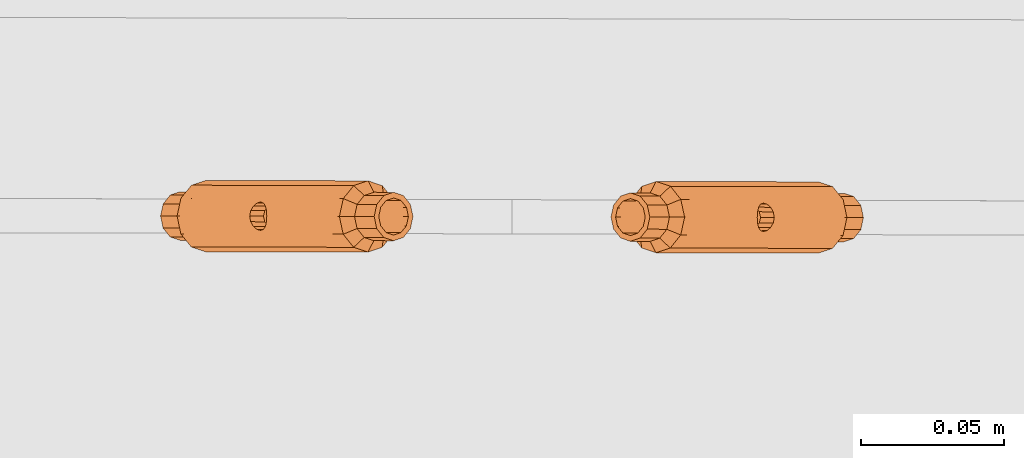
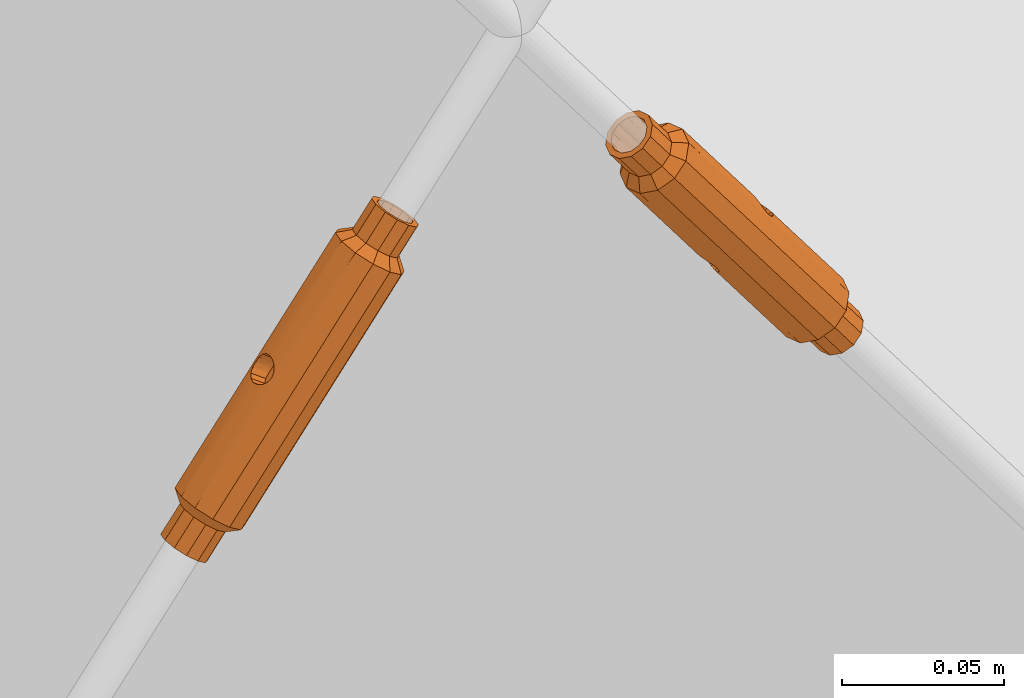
# One storey, part 282 of 288: 2 proxies.
"""IFC2X3 building model written with IfcOpenShell, lengths in millimetres."""

from ifc_helpers import new_model, entity, si_unit, converted_unit, origin_with_axes, place, context, project, spatial, faceted_brep, material, element, save


model = new_model("IFC2X3")

# Units and contexts
model_context = context("Model", 3, precision=1e-09, world=origin_with_axes())
ifc_project = project(units=[si_unit("LENGTHUNIT", "METRE", prefix="MILLI"), si_unit("AREAUNIT", "SQUARE_METRE"), si_unit("VOLUMEUNIT", "CUBIC_METRE"), converted_unit("PLANEANGLEUNIT", "DEGREE", entity("IfcPlaneAngleMeasure", 0.01745329), si_unit("PLANEANGLEUNIT", "RADIAN"), dimensions=[0, 0, 0, 0, 0, 0, 0])], contexts=[model_context])

# Site, building, storey
site_placement = place(None, origin_with_axes())
site = spatial("IfcSite", under=ifc_project, at=site_placement, Name="Remont ?wietlik?w nad MC w NCPP w Opolu", CompositionType="ELEMENT")
building_placement = place(site_placement, origin_with_axes())
building = spatial("IfcBuilding", under=site, at=building_placement, Name="Konstrukcja 1", CompositionType="ELEMENT")
storey_placement = place(building_placement, origin_with_axes())
storey = spatial("IfcBuildingStorey", under=building, at=storey_placement, Name="Default Storey", CompositionType="ELEMENT", Elevation=0.0)

# Proxies
ifc_material = material(Name="Brak")
proxy_1_placement = place(None, origin_with_axes())
element("IfcBuildingElementProxy", 1, at=proxy_1_placement, inside=storey, material=ifc_material, ObjectType="Turnbuckle", context=model_context, shape_type="Brep", body=[
    faceted_brep([(10519.202180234, -153.152364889, 548.92487712), (10520.82946747, -152.111436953, 549.672208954), (10515.201818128, -152.094945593, 553.895502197), (10558.592998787, -153.558111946, 601.885254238), (10523.442434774, -154.75015774, 555.860026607), (10523.400659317, -153.161795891, 554.534790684), (10522.830250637, -151.827131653, 551.826710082), (10523.144166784, -152.116636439, 552.765058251), (10517.505471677, -152.100120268, 556.97359239), (10521.641694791, -151.824461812, 550.238588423), (10516.482733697, -151.713515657, 555.338582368), (10557.888498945, -156.806537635, 602.407043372), (10517.939934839, -154.737797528, 548.507709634), (10513.935300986, -153.170927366, 552.828271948), (10517.443773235, -156.715687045, 548.365708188), (10512.994431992, -154.781537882, 552.17982246), (10483.695358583, -153.389870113, 501.808707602), (10491.710076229, -149.319733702, 510.181533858), (10492.203044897, -145.833644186, 514.189886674), (10497.210621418, -144.170205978, 510.444995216), (10495.104548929, -148.192143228, 507.642994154), (10488.529720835, -150.400721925, 516.93133749), (10512.640111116, -156.704896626, 551.960803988), (10523.435584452, -156.729146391, 556.371831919), (10545.45192739, -150.528585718, 592.989512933), (10518.170549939, -153.180440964, 558.487316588), (10518.524798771, -154.793960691, 559.569374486), (10549.125251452, -145.96150798, 590.248062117), (10522.329693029, -151.726649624, 550.962675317), (10560.5031273, -151.183231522, 600.459699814), (10485.605487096, -151.014989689, 500.383153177), (10488.213919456, -148.150006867, 498.435809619), (10484.808767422, -149.281144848, 500.982335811), (10498.493921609, -149.334972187, 505.10445445), (10491.613955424, -149.296431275, 495.889283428), (10556.287278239, -156.802940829, 603.605408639), (10557.189453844, -161.054978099, 602.923069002), (10559.673336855, -164.171781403, 601.058882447), (10563.073372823, -165.318205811, 598.512356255), (10566.478524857, -164.18706783, 595.965830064), (10568.97638522, -161.081454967, 594.101643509), (10569.897654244, -156.833513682, 593.419303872), (10568.995478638, -152.581476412, 594.101643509), (10566.511595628, -149.464673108, 595.965830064), (10563.111559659, -148.3182487, 598.512356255), (10559.706407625, -149.449386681, 601.058882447), (10557.208547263, -152.554999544, 602.923069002), (10560.477837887, -162.441533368, 600.459699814), (10558.578397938, -160.058095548, 601.885254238), (10563.10706709, -150.318243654, 598.512356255), (10565.707094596, -151.194921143, 596.565012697), (10567.606534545, -153.578358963, 595.139458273), (10568.296433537, -156.829916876, 594.617669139), (10567.591933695, -160.078342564, 595.139458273), (10565.681805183, -162.453222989, 596.565012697), (10563.077865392, -163.318210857, 598.512356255), (10482.990858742, -156.638295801, 502.330496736), (10482.310907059, -152.38675771, 502.846522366), (10489.220049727, -152.415606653, 512.039873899), (10487.174913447, -156.647694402, 517.934778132), (10517.93104405, -158.695785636, 548.507709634), (10512.985787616, -158.629827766, 552.17982246), (10523.433543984, -158.708145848, 555.860026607), (10518.631922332, -156.718355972, 559.966927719), (10550.317964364, -152.539521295, 593.716026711), (10549.39669534, -156.78746258, 594.398366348), (10523.384633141, -160.296303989, 554.534790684), (10494.097838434, -152.413234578, 494.025096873), (10495.00001404, -156.665271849, 493.342757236), (10494.078745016, -160.913213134, 494.025096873), (10491.580884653, -164.018825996, 495.889283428), (10488.175732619, -165.149963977, 498.435809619), (10484.775696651, -164.003539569, 500.982335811), (10482.291813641, -160.886736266, 502.846522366), (10481.389638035, -156.634698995, 503.528862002), (10492.694293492, -159.910100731, 495.062911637), (10493.398793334, -156.661675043, 494.541122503), (10492.708894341, -153.41011713, 495.062911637), (10490.809454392, -151.02667931, 496.488466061), (10488.209426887, -150.150001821, 498.435809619), (10483.680757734, -159.889853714, 501.808707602), (10485.580197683, -162.273291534, 500.383153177), (10488.180225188, -163.149969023, 498.435809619), (10490.784164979, -162.284981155, 496.488466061), (10527.902659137, -153.171908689, 542.41337519), (10528.163844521, -152.127912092, 544.183107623), (10527.853748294, -154.76006683, 541.088139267), (10502.210674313, -145.856124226, 506.700103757), (10554.132827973, -144.298069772, 586.503170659), (10552.815824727, -149.433908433, 591.851840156), (10500.970014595, -152.442000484, 503.24611441), (10513.919411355, -160.244648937, 552.828271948), (10519.186154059, -160.286872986, 548.92487712), (10518.516154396, -158.642250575, 559.569374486), (10544.097120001, -156.775558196, 593.992953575), (10518.154660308, -160.254162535, 558.487316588), (10523.123447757, -161.340300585, 552.765058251), (10517.484735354, -161.331484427, 556.97359239), (10522.808234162, -161.628392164, 551.826710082), (10520.808748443, -161.335101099, 549.672208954), (10515.181081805, -161.326309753, 553.895502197), (10533.802556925, -152.13672825, 539.974573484), (10533.132631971, -153.214050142, 538.460849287), (10527.851707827, -156.739066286, 540.576333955), (10532.771137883, -154.825962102, 537.378791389), (10528.479058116, -151.839820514, 545.121455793), (10488.301670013, -156.650225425, 512.720073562), (10522.307230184, -161.726624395, 550.962675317), (10516.460270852, -161.713490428, 555.338582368), (10521.619678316, -161.625722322, 550.238588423), (10550.298870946, -161.03949985, 593.716026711), (10501.869360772, -156.680702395, 502.565914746), (10527.844857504, -158.718054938, 541.088139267), (10532.655369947, -156.749856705, 536.981238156), (10534.827021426, -151.75472225, 541.609583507), (10505.863443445, -150.439658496, 503.958652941), (10559.132880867, -145.983988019, 582.758279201), (10556.220976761, -148.302770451, 589.305313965), (10528.980062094, -151.741588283, 545.985490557), (10488.501642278, -162.900690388, 516.93133749), (10545.423848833, -163.028554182, 592.989512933), (10507.190172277, -156.692654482, 502.955212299), (10532.762493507, -158.674251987, 537.378791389), (10529.667613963, -151.842490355, 546.709577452), (10489.20101619, -160.888927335, 512.039873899), (10552.782753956, -164.156303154, 591.851840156), (10528.143125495, -161.351576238, 544.183107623), (10527.886632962, -160.306416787, 542.41337519), (10500.950981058, -160.915321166, 503.24611441), (10533.11674234, -160.287771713, 538.460849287), (10536.106210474, -152.141902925, 543.052663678), (10562.78565, -150.567522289, 580.016828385), (10559.621012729, -149.44919486, 586.758787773), (10530.478543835, -152.133111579, 547.27595692), (10532.10113822, -153.181339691, 548.023288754), (10537.367880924, -153.22356374, 544.119893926), (10533.356248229, -154.772427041, 548.440456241), (10538.301504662, -154.838384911, 544.768343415), (10533.843519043, -156.752525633, 548.582457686), (10528.457041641, -161.641081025, 545.121455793), (10528.957599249, -161.741563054, 545.985490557), (10533.781820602, -161.36809241, 539.974573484), (10529.645597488, -161.643750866, 546.709577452), (10538.647181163, -156.763316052, 544.987361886), (10491.677109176, -163.995955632, 510.181533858), (10492.154411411, -167.484224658, 514.189886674), (10549.076617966, -167.612088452, 590.248062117), (10533.347357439, -158.730415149, 548.440456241), (10532.085112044, -160.315847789, 548.023288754), (10556.182789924, -165.302727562, 589.305313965), (10530.457824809, -161.356775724, 547.27595692), (10534.804558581, -161.754697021, 541.609583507), (10536.085474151, -161.373267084, 543.052663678), (10495.066481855, -165.138784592, 507.642994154), (10498.460954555, -164.011194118, 505.10445445), (10505.835364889, -162.939626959, 503.958652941), (10537.351991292, -160.297285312, 544.119893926), (10538.292860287, -158.686674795, 544.768343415), (10564.112378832, -156.820518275, 579.013387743), (10562.104895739, -152.565998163, 584.894601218), (10497.154464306, -169.170142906, 510.444995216), (10554.07667086, -169.298006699, 586.503170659), (10559.587941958, -164.171589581, 586.758787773), (10562.757571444, -163.067490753, 580.016828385), (10502.162040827, -167.506704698, 506.700103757), (10563.007071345, -156.818035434, 584.212261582), (10559.084247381, -167.634568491, 582.758279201), (10562.085802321, -161.065976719, 584.894601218)], [[[0, 1, 2]], [[3, 4, 5]], [[6, 7, 8]], [[9, 10, 2]], [[1, 9, 2]], [[3, 5, 7]], [[3, 11, 4]], [[12, 0, 13]], [[14, 12, 15]], [[16, 1, 0]], [[17, 18, 19, 20]], [[12, 13, 15]], [[0, 2, 13]], [[21, 2, 10]], [[14, 15, 22]], [[11, 23, 4]], [[7, 5, 8]], [[6, 8, 10]], [[24, 21, 10]], [[5, 4, 25]], [[4, 23, 26]], [[21, 24, 27, 18]], [[28, 6, 10]], [[29, 7, 6]], [[9, 28, 10]], [[30, 9, 1]], [[20, 31, 32, 17]], [[33, 34, 31, 20]], [[29, 3, 7]], [[35, 36, 37, 38, 39, 40, 41, 42, 43, 44, 45, 46], [47, 48, 11, 3, 29, 49, 50, 51, 52, 53, 54, 55]], [[16, 0, 12]], [[56, 12, 14]], [[16, 30, 1]], [[17, 32, 57, 58]], [[18, 17, 58, 21]], [[59, 15, 13]], [[21, 13, 2]], [[60, 14, 61]], [[14, 22, 61]], [[59, 22, 15]], [[11, 62, 23]], [[23, 63, 26]], [[5, 25, 8]], [[24, 10, 8]], [[4, 26, 25]], [[46, 64, 65, 35]], [[48, 66, 62]], [[11, 48, 62]], [[67, 68, 69, 70, 71, 72, 73, 74, 57, 32, 31, 34], [75, 76, 77, 78, 79, 30, 16, 56, 80, 81, 82, 83]], [[77, 84, 85]], [[77, 86, 84]], [[77, 76, 86]], [[20, 19, 87, 33]], [[18, 27, 88, 19]], [[64, 46, 45, 89]], [[78, 77, 85]], [[29, 6, 28]], [[30, 28, 9]], [[34, 33, 90, 67]], [[56, 16, 12]], [[56, 14, 60]], [[21, 59, 13]], [[60, 61, 91]], [[59, 61, 22]], [[92, 60, 91]], [[23, 62, 93]], [[23, 93, 63]], [[94, 26, 63]], [[62, 66, 95]], [[66, 96, 97]], [[24, 8, 25]], [[94, 25, 26]], [[24, 64, 89, 27]], [[47, 98, 96]], [[48, 96, 66]], [[99, 92, 100]], [[80, 60, 92]], [[101, 85, 84]], [[102, 84, 86]], [[76, 103, 86]], [[104, 86, 103]], [[101, 105, 85]], [[78, 85, 105]], [[30, 29, 28]], [[80, 56, 60]], [[58, 57, 74, 106]], [[21, 58, 106, 59]], [[59, 91, 61]], [[96, 98, 97]], [[107, 108, 98]], [[107, 109, 108]], [[109, 99, 100]], [[92, 91, 100]], [[62, 95, 93]], [[94, 63, 93]], [[66, 97, 95]], [[94, 24, 25]], [[64, 24, 94, 65]], [[35, 65, 110, 36]], [[81, 109, 107]], [[47, 107, 98]], [[48, 47, 96]], [[80, 92, 99]], [[81, 99, 109]], [[67, 90, 111, 68]], [[102, 101, 84]], [[104, 102, 86]], [[76, 112, 103]], [[113, 104, 103]], [[101, 114, 105]], [[33, 87, 115, 90]], [[19, 88, 116, 87]], [[27, 89, 117, 88]], [[89, 45, 44, 117]], [[114, 118, 105]], [[78, 105, 118]], [[29, 30, 79, 49]], [[59, 119, 91]], [[98, 108, 97]], [[109, 100, 108]], [[119, 100, 91]], [[94, 93, 95]], [[120, 95, 97]], [[47, 81, 107]], [[81, 80, 99]], [[76, 75, 112]], [[115, 101, 102]], [[121, 102, 104]], [[122, 103, 112]], [[122, 113, 103]], [[121, 104, 113]], [[115, 114, 101]], [[114, 123, 118]], [[50, 78, 118]], [[78, 50, 49, 79]], [[106, 74, 73, 124]], [[59, 106, 124, 119]], [[120, 97, 108]], [[119, 108, 100]], [[120, 94, 95]], [[65, 94, 120, 110]], [[36, 110, 125, 37]], [[81, 47, 55, 82]], [[75, 83, 126]], [[75, 127, 112]], [[75, 126, 127]], [[68, 111, 128, 69]], [[90, 115, 121, 111]], [[121, 115, 102]], [[129, 122, 112]], [[121, 113, 122]], [[114, 130, 123]], [[115, 131, 114]], [[87, 116, 131, 115]], [[88, 117, 132, 116]], [[117, 44, 43, 132]], [[130, 133, 123]], [[50, 118, 123]], [[130, 134, 133]], [[135, 136, 134]], [[137, 138, 136]], [[119, 120, 108]], [[83, 139, 126]], [[83, 140, 139]], [[129, 112, 127]], [[127, 126, 141]], [[54, 142, 140]], [[121, 122, 129]], [[137, 143, 138]], [[135, 137, 136]], [[130, 135, 134]], [[131, 130, 114]], [[50, 123, 133]], [[51, 133, 134]], [[51, 134, 136]], [[52, 136, 138]], [[124, 73, 72, 144]], [[119, 124, 144, 145]], [[120, 119, 145, 146]], [[110, 120, 146, 125]], [[52, 138, 147]], [[53, 147, 148]], [[37, 125, 149, 38]], [[53, 148, 150]], [[54, 150, 142]], [[83, 54, 140]], [[82, 55, 54, 83]], [[126, 139, 141]], [[139, 140, 151]], [[127, 141, 129]], [[140, 142, 151]], [[152, 142, 150]], [[71, 153, 144, 72]], [[70, 154, 153, 71]], [[69, 128, 154, 70]], [[111, 121, 155, 128]], [[155, 121, 129]], [[152, 150, 148]], [[156, 148, 147]], [[157, 147, 138]], [[143, 157, 138]], [[158, 143, 137]], [[158, 137, 135]], [[131, 135, 130]], [[116, 132, 159, 131]], [[132, 43, 42, 159]], [[51, 50, 133]], [[52, 51, 136]], [[53, 52, 147]], [[54, 53, 150]], [[139, 151, 141]], [[155, 129, 141]], [[152, 151, 142]], [[156, 152, 148]], [[157, 156, 147]], [[158, 157, 143]], [[131, 158, 135]], [[145, 144, 153, 160]], [[146, 145, 160, 161]], [[125, 146, 161, 149]], [[38, 149, 162, 39]], [[155, 141, 151]], [[163, 151, 152]], [[154, 164, 160, 153]], [[128, 155, 164, 154]], [[163, 152, 156]], [[158, 156, 157]], [[131, 159, 165, 158]], [[159, 42, 41, 165]], [[163, 155, 151]], [[158, 163, 156]], [[161, 160, 164, 166]], [[149, 161, 166, 162]], [[40, 167, 165, 41]], [[39, 162, 167, 40]], [[155, 163, 166, 164]], [[158, 165, 167, 163]], [[162, 166, 163, 167]]]),
])
proxy_2_placement = place(None, origin_with_axes())
element("IfcBuildingElementProxy", 2, at=proxy_2_placement, inside=storey, material=ifc_material, ObjectType="Turnbuckle", context=model_context, shape_type="Brep", body=[
    faceted_brep([(10690.03693124, -160.673322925, 548.92487712), (10688.409611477, -161.714200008, 549.672208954), (10694.0372603, -161.730867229, 553.895502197), (10650.646125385, -160.266344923, 601.885254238), (10685.796726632, -159.075397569, 555.860026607), (10685.838452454, -160.663760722, 554.534790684), (10686.408819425, -161.998442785, 551.826710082), (10686.094912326, -161.708928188, 552.765058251), (10691.733606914, -161.725620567, 556.97359239), (10687.597375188, -162.001149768, 550.238588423), (10692.756332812, -162.112257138, 555.338582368), (10651.350726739, -157.017941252, 602.407043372), (10691.299226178, -159.087929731, 548.507709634), (10695.303811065, -160.654925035, 552.828271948), (10691.79544959, -157.11005572, 548.365708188), (10696.24473039, -159.044343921, 552.17982246), (10725.543760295, -160.436927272, 501.808707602), (10717.528915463, -164.506813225, 510.181533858), (10717.035837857, -167.992887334, 514.189886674), (10712.028209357, -169.656169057, 510.444995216), (10714.134407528, -165.634297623, 507.642994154), (10720.709304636, -163.425924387, 516.93133749), (10696.59911137, -157.120996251, 551.960803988), (10685.803638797, -157.096409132, 556.371831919), (10663.787102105, -163.296281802, 592.989512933), (10691.068562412, -160.645279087, 558.487316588), (10690.714364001, -159.031748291, 559.569374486), (10660.113635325, -167.863244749, 590.248062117), (10686.909373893, -162.098940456, 550.962675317), (10648.73592266, -162.641165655, 600.459699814), (10723.633557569, -162.811748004, 500.383153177), (10721.025035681, -165.676649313, 498.435809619), (10724.430223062, -164.545617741, 500.982335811), (10710.745070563, -164.491362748, 505.10445445), (10717.62503554, -164.530118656, 495.889283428), (10652.951947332, -157.021588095, 603.605408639), (10652.049904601, -152.769522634, 602.923069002), (10649.56611899, -149.652641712, 601.058882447), (10646.166118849, -148.506111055, 598.512356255), (10642.760931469, -149.637142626, 595.965830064), (10640.262974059, -152.74267743, 594.101643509), (10639.341572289, -156.990589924, 593.419303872), (10640.24361502, -161.242655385, 594.101643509), (10642.727400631, -164.359536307, 595.965830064), (10646.127400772, -165.506066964, 598.512356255), (10649.532588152, -164.375035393, 601.058882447), (10652.030545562, -161.269500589, 602.923069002), (10648.761563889, -151.382864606, 600.459699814), (10650.660929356, -153.766361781, 601.885254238), (10646.13195584, -163.506072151, 598.512356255), (10643.531955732, -162.629313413, 596.565012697), (10641.632590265, -160.245816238, 595.139458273), (10640.942792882, -156.994236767, 594.617669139), (10641.647394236, -153.745833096, 595.139458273), (10643.557596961, -151.371012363, 596.565012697), (10646.161563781, -150.506105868, 598.512356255), (10726.248361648, -157.1885236, 502.330496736), (10726.928180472, -161.440082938, 502.846522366), (10720.019038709, -161.411018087, 512.039873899), (10722.064307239, -157.17899425, 517.934778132), (10691.308240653, -155.129941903, 548.507709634), (10696.253495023, -155.196054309, 552.17982246), (10685.805741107, -155.11740974, 555.860026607), (10690.607300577, -157.107349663, 559.966927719), (10658.921127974, -161.285194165, 593.716026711), (10659.842529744, -157.037281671, 594.398366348), (10685.854701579, -153.529253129, 554.534790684), (10715.14124993, -161.413237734, 494.025096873), (10714.239207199, -157.161172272, 493.342757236), (10715.160608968, -152.913259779, 494.025096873), (10717.658566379, -149.807724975, 495.889283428), (10721.063753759, -148.676693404, 498.435809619), (10724.4637539, -149.823224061, 500.982335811), (10726.94753951, -152.940104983, 502.846522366), (10727.849582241, -157.192170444, 503.528862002), (10716.545029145, -153.916415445, 495.062911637), (10715.840427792, -157.164819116, 494.541122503), (10716.530225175, -160.416398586, 495.062911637), (10718.429590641, -162.799895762, 496.488466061), (10721.029590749, -163.6766545, 498.435809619), (10725.558564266, -153.93694413, 501.808707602), (10723.659198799, -151.553446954, 500.383153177), (10721.059198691, -150.676688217, 498.435809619), (10718.455231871, -151.541594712, 496.488466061), (10681.336452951, -160.653507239, 542.41337519), (10681.075234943, -161.697495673, 544.183107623), (10681.385413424, -159.065350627, 541.088139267), (10707.028209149, -167.970094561, 506.700103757), (10655.106006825, -169.526526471, 586.503170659), (10656.423170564, -164.390728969, 591.851840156), (10708.269074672, -161.384257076, 503.24611441), (10695.319921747, -153.581203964, 552.828271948), (10690.053180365, -153.538815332, 548.92487712), (10690.723128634, -155.183458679, 559.569374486), (10665.142104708, -157.049351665, 593.992953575), (10691.084673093, -153.571558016, 558.487316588), (10686.115919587, -152.485264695, 552.765058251), (10691.754631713, -152.49425706, 556.97359239), (10686.431142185, -152.197182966, 551.826710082), (10688.430618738, -152.490536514, 549.672208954), (10694.058285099, -152.499503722, 553.895502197), (10675.436522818, -161.688503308, 539.974573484), (10676.106481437, -160.611202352, 538.460849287), (10681.387515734, -157.086351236, 540.576333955), (10676.468025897, -158.999301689, 537.378791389), (10680.760012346, -161.985577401, 545.121455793), (10720.937550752, -157.176428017, 512.720073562), (10686.932149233, -152.098966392, 550.962675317), (10692.779108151, -152.112283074, 555.338582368), (10687.619697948, -152.19988995, 550.238588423), (10658.940487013, -152.78521621, 593.716026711), (10707.369860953, -157.145527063, 502.565914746), (10681.394427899, -155.107362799, 541.088139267), (10676.583853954, -157.075410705, 536.981238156), (10674.412046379, -162.070477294, 541.609583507), (10703.375583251, -163.386446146, 503.958652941), (10650.106006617, -167.840451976, 582.758279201), (10653.017983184, -165.52176054, 589.305313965), (10680.259005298, -162.083793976, 545.985490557), (10720.737773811, -150.925956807, 516.93133749), (10663.81557128, -150.796314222, 592.989512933), (10702.049049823, -157.133408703, 502.955212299), (10676.476790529, -155.151012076, 537.378791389), (10679.571456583, -161.982870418, 546.709577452), (10720.038337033, -152.937698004, 512.039873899), (10656.456701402, -149.668335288, 591.851840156), (10681.096242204, -152.473832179, 544.183107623), (10681.352702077, -153.518999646, 542.41337519), (10708.288372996, -152.910936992, 503.24611441), (10676.122592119, -153.53748128, 538.460849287), (10673.132869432, -161.683256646, 543.052663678), (10646.45338072, -163.256803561, 580.016828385), (10649.617983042, -164.375229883, 586.758787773), (10678.760535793, -161.692223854, 547.27595692), (10677.137974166, -160.643945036, 548.023288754), (10671.871232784, -160.601556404, 544.119893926), (10675.882913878, -159.052818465, 548.440456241), (10670.937659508, -158.986706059, 544.768343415), (10675.395704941, -157.072704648, 548.582457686), (10680.782335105, -152.184317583, 545.121455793), (10680.281780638, -152.083819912, 545.985490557), (10675.457547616, -152.457139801, 539.974573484), (10679.593779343, -152.1816106, 546.709577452), (10670.592043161, -157.061764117, 544.987361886), (10717.562341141, -149.830592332, 510.181533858), (10717.085147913, -146.342308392, 514.189886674), (10660.162945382, -146.212665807, 590.248062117), (10675.891928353, -155.094830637, 548.440456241), (10677.154223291, -153.509437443, 548.023288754), (10653.056701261, -148.521804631, 589.305313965), (10678.781543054, -152.46856036, 547.27595692), (10674.434821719, -152.07050323, 541.609583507), (10673.15389423, -152.451893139, 543.052663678), (10714.173004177, -148.687657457, 507.642994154), (10710.778496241, -149.815141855, 505.10445445), (10703.404052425, -150.886478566, 503.958652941), (10671.887343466, -153.527835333, 544.119893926), (10670.946424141, -155.138416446, 544.768343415), (10645.126847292, -157.003766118, 579.013387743), (10647.134197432, -161.258348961, 584.894601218), (10712.085147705, -144.656233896, 510.444995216), (10655.162945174, -144.526591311, 586.503170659), (10649.651513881, -149.652836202, 586.758787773), (10646.481849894, -150.75683598, 580.016828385), (10707.077519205, -146.319515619, 506.700103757), (10646.232154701, -157.0062835, 584.212261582), (10650.155316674, -146.189873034, 582.758279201), (10647.15355647, -152.758371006, 584.894601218)], [[[0, 1, 2]], [[3, 4, 5]], [[6, 7, 8]], [[9, 10, 2]], [[1, 9, 2]], [[3, 5, 7]], [[3, 11, 4]], [[12, 0, 13]], [[14, 12, 15]], [[16, 1, 0]], [[17, 18, 19, 20]], [[12, 13, 15]], [[0, 2, 13]], [[21, 2, 10]], [[14, 15, 22]], [[11, 23, 4]], [[7, 5, 8]], [[6, 8, 10]], [[24, 21, 10]], [[5, 4, 25]], [[4, 23, 26]], [[21, 24, 27, 18]], [[28, 6, 10]], [[29, 7, 6]], [[9, 28, 10]], [[30, 9, 1]], [[20, 31, 32, 17]], [[33, 34, 31, 20]], [[29, 3, 7]], [[35, 36, 37, 38, 39, 40, 41, 42, 43, 44, 45, 46], [47, 48, 11, 3, 29, 49, 50, 51, 52, 53, 54, 55]], [[16, 0, 12]], [[56, 12, 14]], [[16, 30, 1]], [[17, 32, 57, 58]], [[18, 17, 58, 21]], [[59, 15, 13]], [[21, 13, 2]], [[60, 14, 61]], [[14, 22, 61]], [[59, 22, 15]], [[11, 62, 23]], [[23, 63, 26]], [[5, 25, 8]], [[24, 10, 8]], [[4, 26, 25]], [[46, 64, 65, 35]], [[48, 66, 62]], [[11, 48, 62]], [[67, 68, 69, 70, 71, 72, 73, 74, 57, 32, 31, 34], [75, 76, 77, 78, 79, 30, 16, 56, 80, 81, 82, 83]], [[77, 84, 85]], [[77, 86, 84]], [[77, 76, 86]], [[20, 19, 87, 33]], [[18, 27, 88, 19]], [[64, 46, 45, 89]], [[78, 77, 85]], [[29, 6, 28]], [[30, 28, 9]], [[34, 33, 90, 67]], [[56, 16, 12]], [[56, 14, 60]], [[21, 59, 13]], [[60, 61, 91]], [[59, 61, 22]], [[92, 60, 91]], [[23, 62, 93]], [[23, 93, 63]], [[94, 26, 63]], [[62, 66, 95]], [[66, 96, 97]], [[24, 8, 25]], [[94, 25, 26]], [[24, 64, 89, 27]], [[47, 98, 96]], [[48, 96, 66]], [[99, 92, 100]], [[80, 60, 92]], [[101, 85, 84]], [[102, 84, 86]], [[76, 103, 86]], [[104, 86, 103]], [[101, 105, 85]], [[78, 85, 105]], [[30, 29, 28]], [[80, 56, 60]], [[58, 57, 74, 106]], [[21, 58, 106, 59]], [[59, 91, 61]], [[96, 98, 97]], [[107, 108, 98]], [[107, 109, 108]], [[109, 99, 100]], [[92, 91, 100]], [[62, 95, 93]], [[94, 63, 93]], [[66, 97, 95]], [[94, 24, 25]], [[64, 24, 94, 65]], [[35, 65, 110, 36]], [[81, 109, 107]], [[47, 107, 98]], [[48, 47, 96]], [[80, 92, 99]], [[81, 99, 109]], [[67, 90, 111, 68]], [[102, 101, 84]], [[104, 102, 86]], [[76, 112, 103]], [[113, 104, 103]], [[101, 114, 105]], [[33, 87, 115, 90]], [[19, 88, 116, 87]], [[27, 89, 117, 88]], [[89, 45, 44, 117]], [[114, 118, 105]], [[78, 105, 118]], [[29, 30, 79, 49]], [[59, 119, 91]], [[98, 108, 97]], [[109, 100, 108]], [[119, 100, 91]], [[94, 93, 95]], [[120, 95, 97]], [[47, 81, 107]], [[81, 80, 99]], [[76, 75, 112]], [[115, 101, 102]], [[121, 102, 104]], [[122, 103, 112]], [[122, 113, 103]], [[121, 104, 113]], [[115, 114, 101]], [[114, 123, 118]], [[50, 78, 118]], [[78, 50, 49, 79]], [[106, 74, 73, 124]], [[59, 106, 124, 119]], [[120, 97, 108]], [[119, 108, 100]], [[120, 94, 95]], [[65, 94, 120, 110]], [[36, 110, 125, 37]], [[81, 47, 55, 82]], [[75, 83, 126]], [[75, 127, 112]], [[75, 126, 127]], [[68, 111, 128, 69]], [[90, 115, 121, 111]], [[121, 115, 102]], [[129, 122, 112]], [[121, 113, 122]], [[114, 130, 123]], [[115, 131, 114]], [[87, 116, 131, 115]], [[88, 117, 132, 116]], [[117, 44, 43, 132]], [[130, 133, 123]], [[50, 118, 123]], [[130, 134, 133]], [[135, 136, 134]], [[137, 138, 136]], [[119, 120, 108]], [[83, 139, 126]], [[83, 140, 139]], [[129, 112, 127]], [[127, 126, 141]], [[54, 142, 140]], [[121, 122, 129]], [[137, 143, 138]], [[135, 137, 136]], [[130, 135, 134]], [[131, 130, 114]], [[50, 123, 133]], [[51, 133, 134]], [[51, 134, 136]], [[52, 136, 138]], [[124, 73, 72, 144]], [[119, 124, 144, 145]], [[120, 119, 145, 146]], [[110, 120, 146, 125]], [[52, 138, 147]], [[53, 147, 148]], [[37, 125, 149, 38]], [[53, 148, 150]], [[54, 150, 142]], [[83, 54, 140]], [[82, 55, 54, 83]], [[126, 139, 141]], [[139, 140, 151]], [[127, 141, 129]], [[140, 142, 151]], [[152, 142, 150]], [[71, 153, 144, 72]], [[70, 154, 153, 71]], [[69, 128, 154, 70]], [[111, 121, 155, 128]], [[155, 121, 129]], [[152, 150, 148]], [[156, 148, 147]], [[157, 147, 138]], [[143, 157, 138]], [[158, 143, 137]], [[158, 137, 135]], [[131, 135, 130]], [[116, 132, 159, 131]], [[132, 43, 42, 159]], [[51, 50, 133]], [[52, 51, 136]], [[53, 52, 147]], [[54, 53, 150]], [[139, 151, 141]], [[155, 129, 141]], [[152, 151, 142]], [[156, 152, 148]], [[157, 156, 147]], [[158, 157, 143]], [[131, 158, 135]], [[145, 144, 153, 160]], [[146, 145, 160, 161]], [[125, 146, 161, 149]], [[38, 149, 162, 39]], [[155, 141, 151]], [[163, 151, 152]], [[154, 164, 160, 153]], [[128, 155, 164, 154]], [[163, 152, 156]], [[158, 156, 157]], [[131, 159, 165, 158]], [[159, 42, 41, 165]], [[163, 155, 151]], [[158, 163, 156]], [[161, 160, 164, 166]], [[149, 161, 166, 162]], [[40, 167, 165, 41]], [[39, 162, 167, 40]], [[155, 163, 166, 164]], [[158, 165, 167, 163]], [[162, 166, 163, 167]]]),
])

save(model, "model.ifc")
